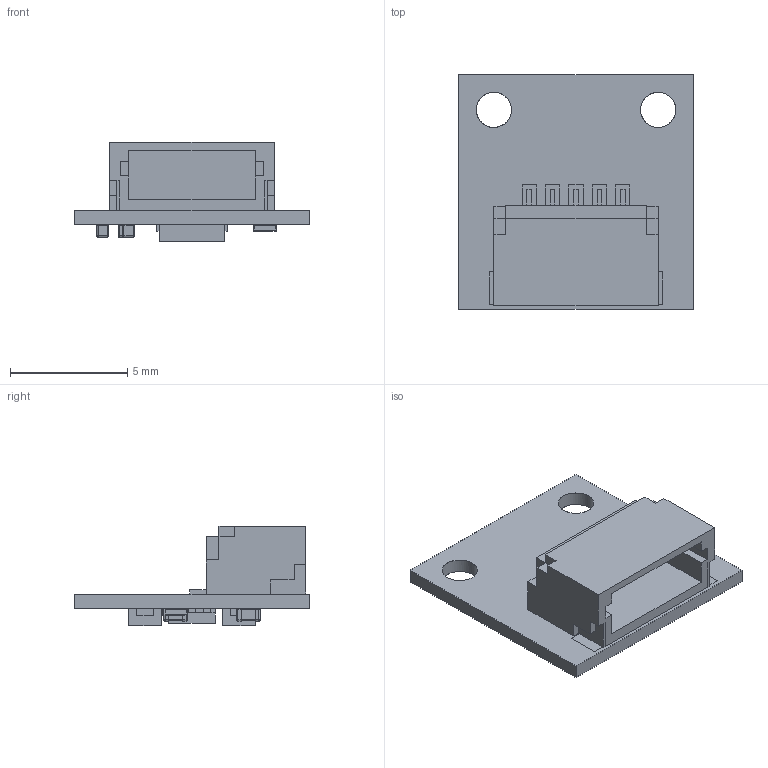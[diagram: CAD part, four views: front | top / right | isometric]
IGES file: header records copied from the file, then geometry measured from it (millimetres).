
Global section: file name: Filename.iges; native system: Open CASCADE 7.4; preprocessor: Open CASCADE IGES processor 7.4; date: 20200724.082245; units: millimetre
Bounding box: 10 x 10 x 4.25 mm (x, y, z)
Surface area: 747.5 mm2 (no closed solid volume)
Topology: 0 solids, 0 shells, 1116 faces, 6028 edges, 8664 vertices
Faces by surface type: plane 898, revolution 218
